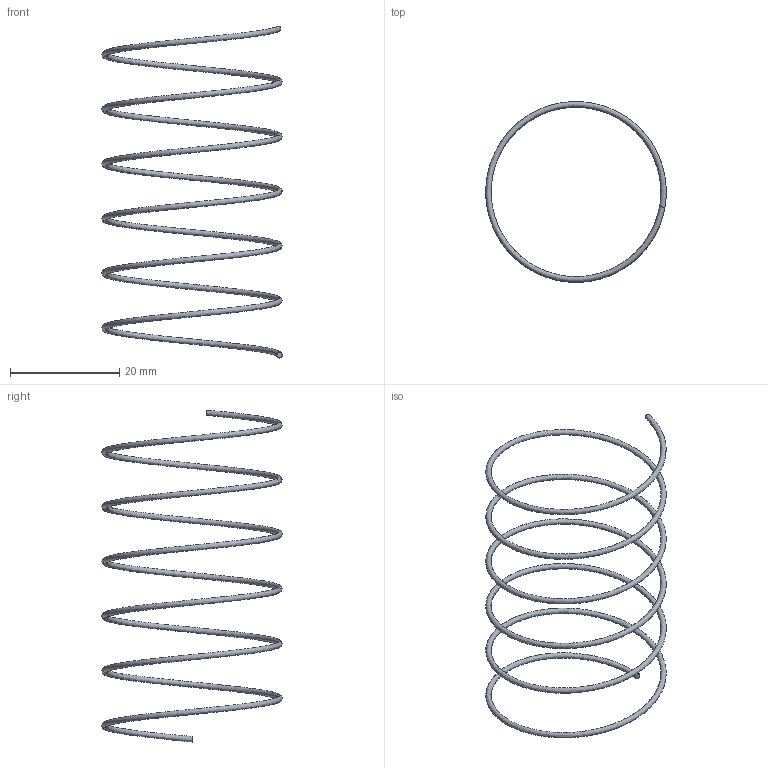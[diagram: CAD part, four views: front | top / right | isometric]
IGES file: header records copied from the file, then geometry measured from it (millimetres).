
Start section: Missler Software BP 521, 31674 Labege Cedex, France Tel   : +33 (0)5 61 00 03 00 Fax   : +33 (0)5 61 00 03 03 Email : sup.topsolid@topsolid.com
Global section: file name: D:\Cuma\25 06 2009\D60.01\D60.01_32\D60.01_3260.igs; native system: TopSolid v605250 Missler Software; preprocessor: IGES preprocessor v100000; date: 030203.162048; units: millimetre
Bounding box: 33 x 33 x 60.72 mm (x, y, z)
Surface area: 1883.2 mm2 (no closed solid volume)
Topology: 0 solids, 0 shells, 3 faces, 27 edges, 26 vertices
Faces by surface type: bspline 3
